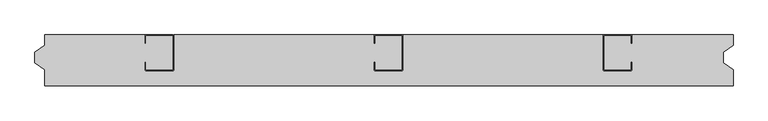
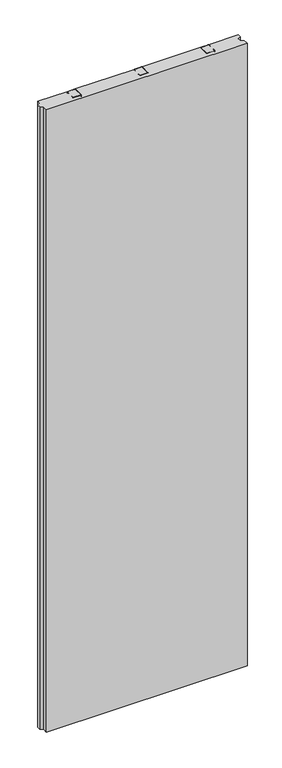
"""IFC4 building model written with IfcOpenShell, lengths in millimetres: plate geometry, Steelfoam Divisorio : Divisorio 9cm."""

import ifcopenshell
import ifcopenshell.guid

model = None  # the IFC model being written
_history = None  # IfcOwnerHistory: only IFC2X3 demands one
_inside = {}  # id of a spatial element -> (the spatial element, [elements in it])
_under = {}  # id of a project, library or spatial element -> (it, [spatial elements below it])
_declared = {}  # id of a project -> (the project, [libraries it declares])
_typed = {}  # id of a type object -> (the type object, [elements of that type])
_made_of = {}  # id of a material, layer set ... -> (it, [elements and type objects made of it])


def new_model(schema):
    """Start an empty IFC model of exactly this schema.

    Asked for "IFC4X3", IfcOpenShell would pick the latest addendum, in which some entities
    have other attributes; the version numbers below select the first issue.
    IFC2X3 requires an IfcOwnerHistory on every rooted entity: one is made here for all.
    """
    global model, _history
    if schema == "IFC4X3":
        model = ifcopenshell.file(schema_version=(4, 3, 0, 0))
    else:
        model = ifcopenshell.file(schema=schema)
    _inside.clear()
    _under.clear()
    _declared.clear()
    _typed.clear()
    _made_of.clear()
    _history = None
    if model.schema == "IFC2X3":
        org = make("IfcOrganization", Name="unknown")
        user = make(
            "IfcPersonAndOrganization",
            ThePerson=make("IfcPerson", FamilyName="unknown"),
            TheOrganization=org,
        )
        app = make(
            "IfcApplication",
            ApplicationDeveloper=org,
            Version="unknown",
            ApplicationFullName="unknown",
            ApplicationIdentifier="unknown",
        )
        _history = make(
            "IfcOwnerHistory",
            OwningUser=user,
            OwningApplication=app,
            ChangeAction="ADDED",
            CreationDate=0,
        )
    return model


def make(cls, **values):
    """One entity of the class cls with the attributes given. An attribute that is None is left unset."""
    return model.create_entity(
        cls, **{name: value for name, value in values.items() if value is not None}
    )


def rooted(cls, **values):
    """An entity with a GlobalId (a new one), such as an element, a storey or a relation."""
    return make(cls, GlobalId=ifcopenshell.guid.new(), OwnerHistory=_history, **values)


def si_unit(unit_type, name, prefix=None):
    """IfcSIUnit, for example si_unit("LENGTHUNIT", "METRE", prefix="MILLI")."""
    return make("IfcSIUnit", UnitType=unit_type, Prefix=prefix, Name=name)


def assignment(units):
    """IfcUnitAssignment: the units of a project."""
    return None if units is None else make("IfcUnitAssignment", Units=units)


def point(xyz):
    """IfcCartesianPoint."""
    return None if xyz is None else make("IfcCartesianPoint", Coordinates=xyz)


def direction(xyz):
    """IfcDirection."""
    return None if xyz is None else make("IfcDirection", DirectionRatios=xyz)


def frame(location, z_axis=None, x_axis=None):
    """IfcAxis2Placement3D, a coordinate frame: its origin and axes. An axis left out is left unset."""
    return make(
        "IfcAxis2Placement3D",
        Location=point(location),
        Axis=direction(z_axis),
        RefDirection=direction(x_axis),
    )


def frame_2d(location, x_axis=None):
    """IfcAxis2Placement2D, a coordinate frame in the plane: its origin and x axis."""
    return make(
        "IfcAxis2Placement2D", Location=point(location), RefDirection=direction(x_axis)
    )


def origin():
    """The frame at (0, 0, 0) with its axes left unset."""
    return frame((0.0, 0.0, 0.0))


def origin_with_axes():
    """The frame at (0, 0, 0) with the z axis (0, 0, 1) and the x axis (1, 0, 0) written out."""
    return frame((0.0, 0.0, 0.0), z_axis=(0.0, 0.0, 1.0), x_axis=(1.0, 0.0, 0.0))


def place(relative_to, where):
    """IfcLocalPlacement: puts the frame where relative to a parent placement (None: the world)."""
    return make(
        "IfcLocalPlacement", PlacementRelTo=relative_to, RelativePlacement=where
    )


def context(
    kind, dimensions, precision=None, world=None, true_north=None, identifier=None
):
    """IfcGeometricRepresentationContext, for example the 3D "Model" context."""
    return make(
        "IfcGeometricRepresentationContext",
        ContextIdentifier=identifier,
        ContextType=kind,
        CoordinateSpaceDimension=dimensions,
        Precision=precision,
        WorldCoordinateSystem=world,
        TrueNorth=true_north,
    )


def project(units=None, contexts=None):
    """IfcProject with its units and contexts."""
    return rooted(
        "IfcProject",
        Name="project",
        RepresentationContexts=contexts,
        UnitsInContext=assignment(units),
    )


def spatial(cls, under=None, at=None, **own):
    """A site, building, storey or space (cls), placed at a placement, below another one or the project."""
    s = rooted(cls, ObjectPlacement=at, **own)
    if under is not None:
        _under.setdefault(under.id(), (under, []))[1].append(s)
    return s


def polyline(points):
    """IfcPolyline through the points."""
    return make("IfcPolyline", Points=[point(p) for p in points])


def circle_curve(where, radius):
    """IfcCircle in the frame where."""
    return make("IfcCircle", Position=where, Radius=radius)


def trimmed(basis, trim1, trim2, sense, master):
    """IfcTrimmedCurve: the piece of a basis curve between two trims."""
    return make(
        "IfcTrimmedCurve",
        BasisCurve=basis,
        Trim1=trim1,
        Trim2=trim2,
        SenseAgreement=sense,
        MasterRepresentation=master,
    )


def segment(curve, same_sense, transition):
    """IfcCompositeCurveSegment."""
    return make(
        "IfcCompositeCurveSegment",
        Transition=transition,
        SameSense=same_sense,
        ParentCurve=curve,
    )


def composite_curve(segments, self_intersect=None):
    """IfcCompositeCurve: segments joined end to end."""
    return make("IfcCompositeCurve", Segments=segments, SelfIntersect=self_intersect)


def outline(outer, holes=None, kind="AREA"):
    """IfcArbitraryClosedProfileDef: a profile drawn as a closed curve; with holes, ...WithVoids."""
    if holes is None:
        return make("IfcArbitraryClosedProfileDef", ProfileType=kind, OuterCurve=outer)
    return make(
        "IfcArbitraryProfileDefWithVoids",
        ProfileType=kind,
        OuterCurve=outer,
        InnerCurves=holes,
    )


def extrude(swept, where, along, depth):
    """IfcExtrudedAreaSolid: the profile swept, set in the frame where, extruded along a direction by depth."""
    return make(
        "IfcExtrudedAreaSolid",
        SweptArea=swept,
        Position=where,
        ExtrudedDirection=direction(along),
        Depth=depth,
    )


def shape(context_of_items, identifier, shape_type, items):
    """IfcShapeRepresentation: the items that make up one representation, for example the "Body"."""
    return make(
        "IfcShapeRepresentation",
        ContextOfItems=context_of_items,
        RepresentationIdentifier=identifier,
        RepresentationType=shape_type,
        Items=items,
    )


def source(mapping_origin, context_of_items, identifier, shape_type, items):
    """IfcRepresentationMap: a shape defined once, which mapped items show again and again."""
    return make(
        "IfcRepresentationMap",
        MappingOrigin=mapping_origin,
        MappedRepresentation=shape(context_of_items, identifier, shape_type, items),
    )


def transform(
    local_origin,
    x_axis=None,
    y_axis=None,
    z_axis=None,
    scale=None,
    scale2=None,
    scale3=None,
    uniform=True,
):
    """IfcCartesianTransformationOperator3D, or its non-uniform kind. x_axis, y_axis, z_axis: its Axis1, 2, 3."""
    if uniform:
        return make(
            "IfcCartesianTransformationOperator3D",
            Axis1=direction(x_axis),
            Axis2=direction(y_axis),
            LocalOrigin=point(local_origin),
            Scale=scale,
            Axis3=direction(z_axis),
        )
    return make(
        "IfcCartesianTransformationOperator3DnonUniform",
        Axis1=direction(x_axis),
        Axis2=direction(y_axis),
        LocalOrigin=point(local_origin),
        Scale=scale,
        Axis3=direction(z_axis),
        Scale2=scale2,
        Scale3=scale3,
    )


def mapped(mapping_source, mapping_target):
    """IfcMappedItem: shows the shape of a source again, moved by a transform."""
    return make(
        "IfcMappedItem", MappingSource=mapping_source, MappingTarget=mapping_target
    )


def made_of(thing, what):
    """Note that an element or type object is made of a material, layer set ...; save() writes the relation."""
    if what is not None:
        _made_of.setdefault(what.id(), (what, []))[1].append(thing)
    return thing


def element(
    cls,
    number,
    at=None,
    inside=None,
    cuts=None,
    type_object=None,
    material=None,
    context=None,
    identifier="Body",
    shape_type=None,
    held_by="IfcProductDefinitionShape",
    body=None,
    shapes=None,
    **own,
):
    """One element of the class cls, such as IfcWall. Its Tag is "e" and its number.

    at: its placement. inside: the storey or other place that contains it. cuts: it is an
    opening in that element (IfcRelVoidsElement). A single representation is given by context,
    identifier, shape_type and body (its items); several are given by shapes. held_by: the class
    of the entity that holds the representations. save() writes the other relations.
    """
    e = rooted(cls, Tag="e%d" % number, ObjectPlacement=at, **own)
    if body is not None:
        shapes = [shape(context, identifier, shape_type, body)]
    if shapes is not None:
        e.Representation = make(held_by, Representations=shapes)
    if inside is not None:
        _inside.setdefault(inside.id(), (inside, []))[1].append(e)
    if cuts is not None:
        rooted(
            "IfcRelVoidsElement", RelatingBuildingElement=cuts, RelatedOpeningElement=e
        )
    if type_object is not None:
        _typed.setdefault(type_object.id(), (type_object, []))[1].append(e)
    return made_of(e, material)


def aggregate(whole, parts):
    """IfcRelAggregates: a whole, such as a stair, and the parts it consists of."""
    return rooted("IfcRelAggregates", RelatingObject=whole, RelatedObjects=parts)


def save(model, path):
    """Write the relations noted so far, then the file.

    IfcRelAggregates (storeys below a building ...), IfcRelContainedInSpatialStructure (elements
    in a storey), IfcRelDefinesByType, IfcRelAssociatesMaterial and IfcRelDeclares: one each for
    every whole, place, type object, material and project.
    """
    for whole, parts in _under.values():
        aggregate(whole, parts)
    for where, things in _inside.values():
        rooted(
            "IfcRelContainedInSpatialStructure",
            RelatedElements=things,
            RelatingStructure=where,
        )
    for kind, things in _typed.values():
        rooted("IfcRelDefinesByType", RelatedObjects=things, RelatingType=kind)
    for what, things in _made_of.values():
        rooted("IfcRelAssociatesMaterial", RelatedObjects=things, RelatingMaterial=what)
    for by, libraries in _declared.values():
        rooted("IfcRelDeclares", RelatingContext=by, RelatedDefinitions=libraries)
    model.write(path)


def plate_d48fab5e(model_context):
    return source(origin(), model_context, "Body", "SweptSolid", [
        extrude(outline(composite_curve([segment(trimmed(circle_curve(frame_2d((381.6603819, -61.5)), 2.0), [point((381.6603819, -63.5))], [point((379.6603819, -61.5))], False, "CARTESIAN"), True, "CONTINUOUS"), segment(polyline([(379.6603819, -61.5), (379.6603819, -2.0)]), True, "CONTINUOUS"), segment(trimmed(circle_curve(frame_2d((381.6603819, -2.0)), 2.0), [point((379.6603819, -2.0))], [point((381.6603819, 0.0))], False, "CARTESIAN"), True, "CONTINUOUS"), segment(polyline([(381.6603819, 0.0), (428.4603819, 0.0)]), True, "CONTINUOUS"), segment(trimmed(circle_curve(frame_2d((428.4603819, -2.0)), 2.0), [point((428.4603819, 0.0))], [point((430.4603819, -2.0))], False, "CARTESIAN"), True, "CONTINUOUS"), segment(polyline([(430.4603819, -2.0), (430.4603819, -15.0), (429.6603819, -15.0), (429.6603819, -2.0)]), True, "CONTINUOUS"), segment(trimmed(circle_curve(frame_2d((428.3603819, -2.0)), 1.3), [point((429.6603819, -2.0))], [point((428.3603819, -0.7))], True, "CARTESIAN"), True, "CONTINUOUS"), segment(polyline([(428.3603819, -0.7), (381.6603819, -0.7)]), True, "CONTINUOUS"), segment(trimmed(circle_curve(frame_2d((381.6603819, -2.0)), 1.3), [point((381.6603819, -0.7))], [point((380.3603819, -2.0))], True, "CARTESIAN"), True, "CONTINUOUS"), segment(polyline([(380.3603819, -2.0), (380.3603819, -61.5)]), True, "CONTINUOUS"), segment(trimmed(circle_curve(frame_2d((381.6603819, -61.5)), 1.3), [point((380.3603819, -61.5))], [point((381.6603819, -62.8))], True, "CARTESIAN"), True, "CONTINUOUS"), segment(polyline([(381.6603819, -62.8), (428.3603819, -62.8)]), True, "CONTINUOUS"), segment(trimmed(circle_curve(frame_2d((428.3603819, -61.5)), 1.3), [point((428.3603819, -62.8))], [point((429.6603819, -61.5))], True, "CARTESIAN"), True, "CONTINUOUS"), segment(polyline([(429.6603819, -61.5), (429.6603819, -48.5), (430.4603819, -48.5), (430.4603819, -61.5)]), True, "CONTINUOUS"), segment(trimmed(circle_curve(frame_2d((428.4603819, -61.5)), 2.0), [point((430.4603819, -61.5))], [point((428.4603819, -63.5))], False, "CARTESIAN"), True, "CONTINUOUS"), segment(polyline([(428.4603819, -63.5), (381.6603819, -63.5)]), True, "CONTINUOUS")], self_intersect=False)), origin_with_axes(), (0.0, 0.0, 1.0), 4000.0),
        extrude(outline(composite_curve([segment(polyline([(-383.6225297, -63.5), (-430.4225297, -63.5)]), True, "CONTINUOUS"), segment(trimmed(circle_curve(frame_2d((-430.4225297, -61.5)), 2.0), [point((-430.4225297, -63.5))], [point((-432.4225297, -61.5))], False, "CARTESIAN"), True, "CONTINUOUS"), segment(polyline([(-432.4225297, -61.5), (-432.4225297, -48.5), (-431.6225297, -48.5), (-431.6225297, -61.5)]), True, "CONTINUOUS"), segment(trimmed(circle_curve(frame_2d((-430.3225297, -61.5)), 1.3), [point((-431.6225297, -61.5))], [point((-430.3225297, -62.8))], True, "CARTESIAN"), True, "CONTINUOUS"), segment(polyline([(-430.3225297, -62.8), (-383.6225297, -62.8)]), True, "CONTINUOUS"), segment(trimmed(circle_curve(frame_2d((-383.6225297, -61.5)), 1.3), [point((-383.6225297, -62.8))], [point((-382.3225297, -61.5))], True, "CARTESIAN"), True, "CONTINUOUS"), segment(polyline([(-382.3225297, -61.5), (-382.3225297, -2.0)]), True, "CONTINUOUS"), segment(trimmed(circle_curve(frame_2d((-383.6225297, -2.0)), 1.3), [point((-382.3225297, -2.0))], [point((-383.6225297, -0.7))], True, "CARTESIAN"), True, "CONTINUOUS"), segment(polyline([(-383.6225297, -0.7), (-430.3225297, -0.7)]), True, "CONTINUOUS"), segment(trimmed(circle_curve(frame_2d((-430.3225297, -2.0)), 1.3), [point((-430.3225297, -0.7))], [point((-431.6225297, -2.0))], True, "CARTESIAN"), True, "CONTINUOUS"), segment(polyline([(-431.6225297, -2.0), (-431.6225297, -15.0), (-432.4225297, -15.0), (-432.4225297, -2.0)]), True, "CONTINUOUS"), segment(trimmed(circle_curve(frame_2d((-430.4225297, -2.0)), 2.0), [point((-432.4225297, -2.0))], [point((-430.4225297, 0.0))], False, "CARTESIAN"), True, "CONTINUOUS"), segment(polyline([(-430.4225297, 0.0), (-383.6225297, 0.0)]), True, "CONTINUOUS"), segment(trimmed(circle_curve(frame_2d((-383.6225297, -2.0)), 2.0), [point((-383.6225297, 0.0))], [point((-381.6225297, -2.0))], False, "CARTESIAN"), True, "CONTINUOUS"), segment(polyline([(-381.6225297, -2.0), (-381.6225297, -61.5)]), True, "CONTINUOUS"), segment(trimmed(circle_curve(frame_2d((-383.6225297, -61.5)), 2.0), [point((-381.6225297, -61.5))], [point((-383.6225297, -63.5))], False, "CARTESIAN"), True, "CONTINUOUS")], self_intersect=False)), origin_with_axes(), (0.0, 0.0, 1.0), 4000.0),
        extrude(outline(composite_curve([segment(polyline([(22.3849224, -63.5), (-24.4150776, -63.5)]), True, "CONTINUOUS"), segment(trimmed(circle_curve(frame_2d((-24.4150776, -61.5)), 2.0), [point((-24.4150776, -63.5))], [point((-26.4150776, -61.5))], False, "CARTESIAN"), True, "CONTINUOUS"), segment(polyline([(-26.4150776, -61.5), (-26.4150776, -48.5), (-25.6150776, -48.5), (-25.6150776, -61.5)]), True, "CONTINUOUS"), segment(trimmed(circle_curve(frame_2d((-24.3150776, -61.5)), 1.3), [point((-25.6150776, -61.5))], [point((-24.3150776, -62.8))], True, "CARTESIAN"), True, "CONTINUOUS"), segment(polyline([(-24.3150776, -62.8), (22.3849224, -62.8)]), True, "CONTINUOUS"), segment(trimmed(circle_curve(frame_2d((22.3849224, -61.5)), 1.3), [point((22.3849224, -62.8))], [point((23.6849224, -61.5))], True, "CARTESIAN"), True, "CONTINUOUS"), segment(polyline([(23.6849224, -61.5), (23.6849224, -2.0)]), True, "CONTINUOUS"), segment(trimmed(circle_curve(frame_2d((22.3849224, -2.0)), 1.3), [point((23.6849224, -2.0))], [point((22.3849224, -0.7))], True, "CARTESIAN"), True, "CONTINUOUS"), segment(polyline([(22.3849224, -0.7), (-24.3150776, -0.7)]), True, "CONTINUOUS"), segment(trimmed(circle_curve(frame_2d((-24.3150776, -2.0)), 1.3), [point((-24.3150776, -0.7))], [point((-25.6150776, -2.0))], True, "CARTESIAN"), True, "CONTINUOUS"), segment(polyline([(-25.6150776, -2.0), (-25.6150776, -15.0), (-26.4150776, -15.0), (-26.4150776, -2.0)]), True, "CONTINUOUS"), segment(trimmed(circle_curve(frame_2d((-24.4150776, -2.0)), 2.0), [point((-26.4150776, -2.0))], [point((-24.4150776, 0.0))], False, "CARTESIAN"), True, "CONTINUOUS"), segment(polyline([(-24.4150776, 0.0), (22.3849224, 0.0)]), True, "CONTINUOUS"), segment(trimmed(circle_curve(frame_2d((22.3849224, -2.0)), 2.0), [point((22.3849224, 0.0))], [point((24.3849224, -2.0))], False, "CARTESIAN"), True, "CONTINUOUS"), segment(polyline([(24.3849224, -2.0), (24.3849224, -61.5)]), True, "CONTINUOUS"), segment(trimmed(circle_curve(frame_2d((22.3849224, -61.5)), 2.0), [point((24.3849224, -61.5))], [point((22.3849224, -63.5))], False, "CARTESIAN"), True, "CONTINUOUS")], self_intersect=False)), origin_with_axes(), (0.0, 0.0, 1.0), 4000.0),
        extrude(outline(polyline([(610.0, -90.0), (-610.0, -90.0), (-610.0, -61.6434349), (-627.6333408, -49.2964367), (-627.6333408, -30.7035633), (-610.0, -18.3565651), (-610.0, 0.0), (-432.4225297, 0.0), (-432.4225297, -0.8), (-381.6225297, -0.8), (-381.6225297, 0.0), (-26.4150776, 0.0), (-26.4150776, -0.8), (24.3849224, -0.8), (24.3849224, 0.0), (379.6603819, 0.0), (379.6603819, -0.8), (430.4603819, -0.8), (430.4603819, 0.0), (610.0, 0.0), (610.0, -18.3565651), (592.3666592, -30.7035633), (592.3666592, -49.2964367), (610.0, -61.6434349), (610.0, -90.0)])), origin_with_axes(), (0.0, 0.0, 1.0), 4000.0),
    ])


if __name__ == "__main__":
    model = new_model("IFC4")
    model_context = context("Model", 3, world=origin())
    ifc_project = project(units=[si_unit("LENGTHUNIT", "METRE", prefix="MILLI")], contexts=[model_context])
    site = spatial("IfcSite", under=ifc_project)
    building = spatial("IfcBuilding", under=site)
    placement = place(None, origin())
    plate_shape = plate_d48fab5e(model_context)
    element("IfcPlate", 1, ObjectType="Steelfoam Divisorio : Divisorio 9cm", at=placement, inside=building, context=model_context, shape_type="MappedRepresentation", body=[
        mapped(plate_shape, transform((0.0, 0.0, 0.0), x_axis=(1.0, 0.0, 0.0), y_axis=(0.0, 1.0, 0.0), z_axis=(0.0, 0.0, 1.0))),
    ])
    save(model, "model.ifc")
